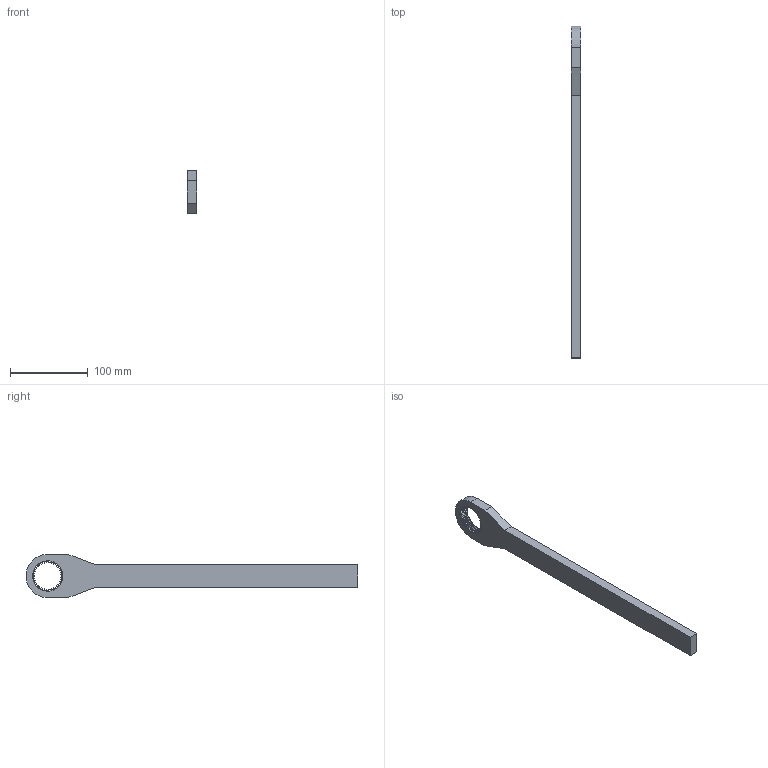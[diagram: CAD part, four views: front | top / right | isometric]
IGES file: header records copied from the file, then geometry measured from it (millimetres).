
Start section:  PTC IGES file: 6158120970.igs
Global section: file name: 6158120970.igs; native system: Creo Parametric by Parametric Technology Corporation; preprocessor: 2014200; author: gredl; organization: Unknown; date: 20150218.151842; units: millimetre
Bounding box: 12 x 428 x 56 mm (x, y, z)
Surface area: 40048.3 mm2 (no closed solid volume)
Topology: 0 solids, 0 shells, 280 faces, 1668 edges, 1668 vertices
Faces by surface type: bspline 144, revolution 136
